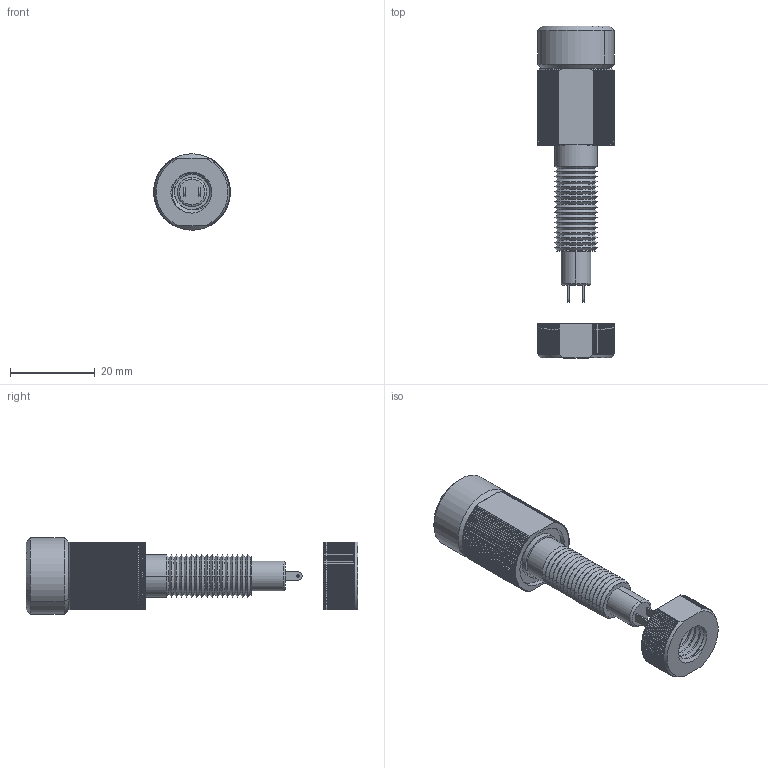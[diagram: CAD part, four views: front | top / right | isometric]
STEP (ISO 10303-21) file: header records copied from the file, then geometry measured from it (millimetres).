
FILE_DESCRIPTION (( 'STEP AP214' ), '1' );
FILE_NAME ('M10羲壽蚾饜.STEP', '2023-05-09T01:28:11', ( '' ), ( '' ), 'SwSTEP 2.0', 'SolidWorks 2020', '' );
FILE_SCHEMA (( 'AUTOMOTIVE_DESIGN' ));
Length unit declared in the file: millimetre
Products named in the file (5): 偌聽; M10羲壽蚾饜; 湮蹟佪2; 滅阨蹟佪蹟譫1; M10羲壽唅聽
Assembly tree (4 placements, depth 2):
  M10羲壽蚾饜
    偌聽
    湮蹟佪2
    滅阨蹟佪蹟譫1
    M10羲壽唅聽
Bounding box: 18 x 78.11 x 17.99 mm (x, y, z)
Volume: 9370.5 mm3; surface area: 7163.9 mm2
Topology: 4 solids, 4 shells, 629 faces, 1784 edges, 1189 vertices
Faces by surface type: cylinder 474, cone 92, plane 48, torus 12, bspline 3
Entity records: 24994 total; most frequent: CARTESIAN_POINT 8179, ORIENTED_EDGE 3568, DIRECTION 3501, EDGE_CURVE 1784, AXIS2_PLACEMENT_3D 1426, VERTEX_POINT 1189, CIRCLE 793, EDGE_LOOP 663
